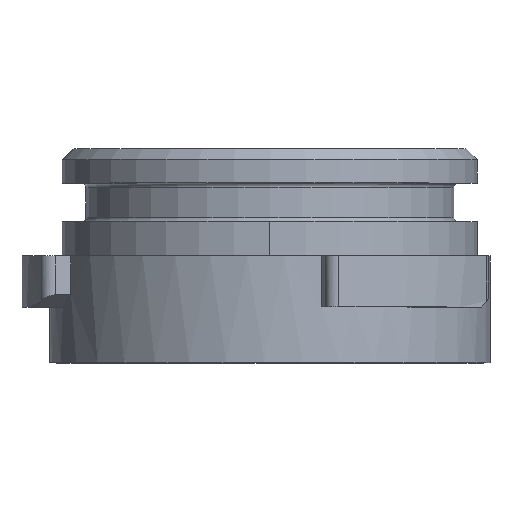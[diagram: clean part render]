
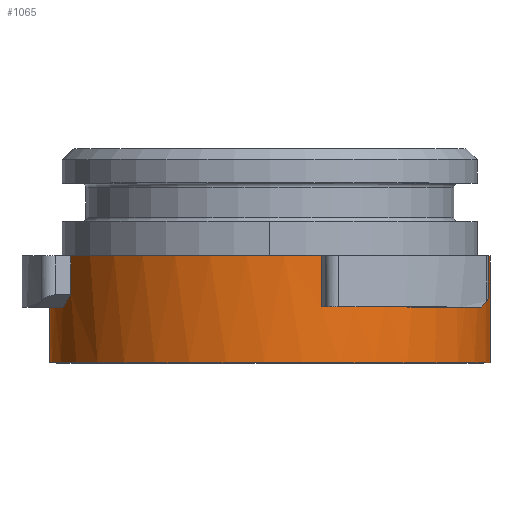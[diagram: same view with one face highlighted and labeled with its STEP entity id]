
A CAD part, top view. The second image highlights one B-rep face of the part: STEP entity #1065.
In plain terms, the highlighted cylindrical face has radius 10.3 mm (diameter 20.6 mm), a partial arc.
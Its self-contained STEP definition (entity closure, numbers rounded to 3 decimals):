
#487=AXIS2_PLACEMENT_3D('Circle Axis2P3D',#485,#486,$) ;
#538=AXIS2_PLACEMENT_3D('Circle Axis2P3D',#536,#537,$) ;
#998=AXIS2_PLACEMENT_3D('Cylinder Axis2P3D',#995,#996,#997) ;
#1009=AXIS2_PLACEMENT_3D('Circle Axis2P3D',#1007,#1008,$) ;
#1036=AXIS2_PLACEMENT_3D('Circle Axis2P3D',#1034,#1035,$) ;
#375=CARTESIAN_POINT('Vertex',(-10.297,-349.305,-70.743)) ;
#379=CARTESIAN_POINT('Control Point',(-10.297,-349.305,-70.743)) ;
#380=CARTESIAN_POINT('Control Point',(-10.316,-349.305,-69.973)) ;
#381=CARTESIAN_POINT('Control Point',(-10.262,-349.305,-69.201)) ;
#382=CARTESIAN_POINT('Control Point',(-10.137,-349.305,-68.436)) ;
#383=CARTESIAN_POINT('Control Point',(-9.942,-349.305,-67.687)) ;
#384=CARTESIAN_POINT('Control Point',(-9.679,-349.305,-66.963)) ;
#385=CARTESIAN_POINT('Vertex',(-9.679,-349.305,-66.963)) ;
#482=CARTESIAN_POINT('Vertex',(-9.291,-346.905,-66.04)) ;
#485=CARTESIAN_POINT('Axis2P3D Location',(0.,-346.905,-70.486)) ;
#489=CARTESIAN_POINT('Vertex',(2.417,-346.905,-60.474)) ;
#533=CARTESIAN_POINT('Vertex',(9.224,-346.905,-65.902)) ;
#536=CARTESIAN_POINT('Axis2P3D Location',(0.,-346.905,-70.486)) ;
#540=CARTESIAN_POINT('Vertex',(10.297,-346.905,-70.23)) ;
#957=CARTESIAN_POINT('Control Point',(-9.291,-348.728,-66.04)) ;
#958=CARTESIAN_POINT('Control Point',(-9.377,-348.844,-66.221)) ;
#959=CARTESIAN_POINT('Control Point',(-9.459,-348.959,-66.404)) ;
#960=CARTESIAN_POINT('Control Point',(-9.537,-349.075,-66.588)) ;
#961=CARTESIAN_POINT('Control Point',(-9.61,-349.19,-66.775)) ;
#962=CARTESIAN_POINT('Control Point',(-9.679,-349.305,-66.963)) ;
#963=CARTESIAN_POINT('Vertex',(-9.291,-348.728,-66.04)) ;
#995=CARTESIAN_POINT('Axis2P3D Location',(0.,-349.405,-70.486)) ;
#1000=CARTESIAN_POINT('Line Origine',(-10.297,-349.405,-70.743)) ;
#1004=CARTESIAN_POINT('Vertex',(-10.297,-351.905,-70.743)) ;
#1007=CARTESIAN_POINT('Axis2P3D Location',(0.,-351.905,-70.486)) ;
#1011=CARTESIAN_POINT('Vertex',(10.297,-351.905,-70.23)) ;
#1014=CARTESIAN_POINT('Line Origine',(10.297,-349.405,-70.23)) ;
#1019=CARTESIAN_POINT('Line Origine',(9.224,-349.405,-65.902)) ;
#1023=CARTESIAN_POINT('Vertex',(9.224,-348.728,-65.902)) ;
#1027=CARTESIAN_POINT('Control Point',(9.224,-348.728,-65.902)) ;
#1028=CARTESIAN_POINT('Control Point',(9.075,-348.921,-65.603)) ;
#1029=CARTESIAN_POINT('Control Point',(8.912,-349.113,-65.312)) ;
#1030=CARTESIAN_POINT('Control Point',(8.735,-349.305,-65.028)) ;
#1031=CARTESIAN_POINT('Vertex',(8.735,-349.305,-65.028)) ;
#1034=CARTESIAN_POINT('Axis2P3D Location',(0.,-349.305,-70.486)) ;
#1038=CARTESIAN_POINT('Vertex',(2.417,-349.305,-60.474)) ;
#1041=CARTESIAN_POINT('Line Origine',(2.417,-349.405,-60.474)) ;
#1046=CARTESIAN_POINT('Line Origine',(-9.291,-349.405,-66.04)) ;
#486=DIRECTION('Axis2P3D Direction',(-0.,1.,0.)) ;
#537=DIRECTION('Axis2P3D Direction',(-0.,1.,0.)) ;
#996=DIRECTION('Axis2P3D Direction',(0.,1.,0.)) ;
#997=DIRECTION('Axis2P3D XDirection',(-1.,0.,-0.025)) ;
#1001=DIRECTION('Vector Direction',(0.,1.,0.)) ;
#1008=DIRECTION('Axis2P3D Direction',(0.,1.,0.)) ;
#1015=DIRECTION('Vector Direction',(0.,1.,0.)) ;
#1020=DIRECTION('Vector Direction',(0.,1.,0.)) ;
#1035=DIRECTION('Axis2P3D Direction',(0.,1.,0.)) ;
#1042=DIRECTION('Vector Direction',(0.,1.,0.)) ;
#1047=DIRECTION('Vector Direction',(0.,1.,0.)) ;
#1002=VECTOR('Line Direction',#1001,1.) ;
#1016=VECTOR('Line Direction',#1015,1.) ;
#1021=VECTOR('Line Direction',#1020,1.) ;
#1043=VECTOR('Line Direction',#1042,1.) ;
#1048=VECTOR('Line Direction',#1047,1.) ;
#1052=ORIENTED_EDGE('',*,*,#1006,.F.) ;
#1053=ORIENTED_EDGE('',*,*,#1013,.T.) ;
#1054=ORIENTED_EDGE('',*,*,#1018,.T.) ;
#1055=ORIENTED_EDGE('',*,*,#542,.F.) ;
#1056=ORIENTED_EDGE('',*,*,#1025,.T.) ;
#1057=ORIENTED_EDGE('',*,*,#1033,.F.) ;
#1058=ORIENTED_EDGE('',*,*,#1040,.T.) ;
#1059=ORIENTED_EDGE('',*,*,#1045,.F.) ;
#1060=ORIENTED_EDGE('',*,*,#491,.F.) ;
#1061=ORIENTED_EDGE('',*,*,#1050,.T.) ;
#1062=ORIENTED_EDGE('',*,*,#965,.F.) ;
#1063=ORIENTED_EDGE('',*,*,#387,.T.) ;
#1065=ADVANCED_FACE('\X2\538B76D6\X0\.1.1.2\\\X2\96F64EF651E04F554F53\X0\',(#1064),#999,.T.) ;
#378=B_SPLINE_CURVE_WITH_KNOTS('',5,(#379,#380,#381,#382,#383,#384),.UNSPECIFIED.,.F.,.U.,(6,6),(0.,5.455),.UNSPECIFIED.) ;
#956=B_SPLINE_CURVE_WITH_KNOTS('',5,(#957,#958,#959,#960,#961,#962),.UNSPECIFIED.,.F.,.U.,(6,6),(0.,1.635),.UNSPECIFIED.) ;
#1026=B_SPLINE_CURVE_WITH_KNOTS('',3,(#1027,#1028,#1029,#1030),.UNSPECIFIED.,.F.,.U.,(4,4),(0.,1.635),.UNSPECIFIED.) ;
#488=CIRCLE('generated circle',#487,10.3) ;
#539=CIRCLE('generated circle',#538,10.3) ;
#1010=CIRCLE('generated circle',#1009,10.3) ;
#1037=CIRCLE('generated circle',#1036,10.3) ;
#999=CYLINDRICAL_SURFACE('generated cylinder',#998,10.3) ;
#387=EDGE_CURVE('',#386,#376,#378,.F.) ;
#491=EDGE_CURVE('',#483,#490,#488,.T.) ;
#542=EDGE_CURVE('',#534,#541,#539,.T.) ;
#965=EDGE_CURVE('',#386,#964,#956,.F.) ;
#1006=EDGE_CURVE('',#1005,#376,#1003,.T.) ;
#1013=EDGE_CURVE('',#1005,#1012,#1010,.T.) ;
#1018=EDGE_CURVE('',#1012,#541,#1017,.T.) ;
#1025=EDGE_CURVE('',#534,#1024,#1022,.F.) ;
#1033=EDGE_CURVE('',#1032,#1024,#1026,.F.) ;
#1040=EDGE_CURVE('',#1032,#1039,#1037,.F.) ;
#1045=EDGE_CURVE('',#490,#1039,#1044,.F.) ;
#1050=EDGE_CURVE('',#483,#964,#1049,.F.) ;
#1051=EDGE_LOOP('',(#1052,#1053,#1054,#1055,#1056,#1057,#1058,#1059,#1060,#1061,#1062,#1063)) ;
#1064=FACE_OUTER_BOUND('',#1051,.T.) ;
#1003=LINE('Line',#1000,#1002) ;
#1017=LINE('Line',#1014,#1016) ;
#1022=LINE('Line',#1019,#1021) ;
#1044=LINE('Line',#1041,#1043) ;
#1049=LINE('Line',#1046,#1048) ;
#376=VERTEX_POINT('',#375) ;
#386=VERTEX_POINT('',#385) ;
#483=VERTEX_POINT('',#482) ;
#490=VERTEX_POINT('',#489) ;
#534=VERTEX_POINT('',#533) ;
#541=VERTEX_POINT('',#540) ;
#964=VERTEX_POINT('',#963) ;
#1005=VERTEX_POINT('',#1004) ;
#1012=VERTEX_POINT('',#1011) ;
#1024=VERTEX_POINT('',#1023) ;
#1032=VERTEX_POINT('',#1031) ;
#1039=VERTEX_POINT('',#1038) ;
